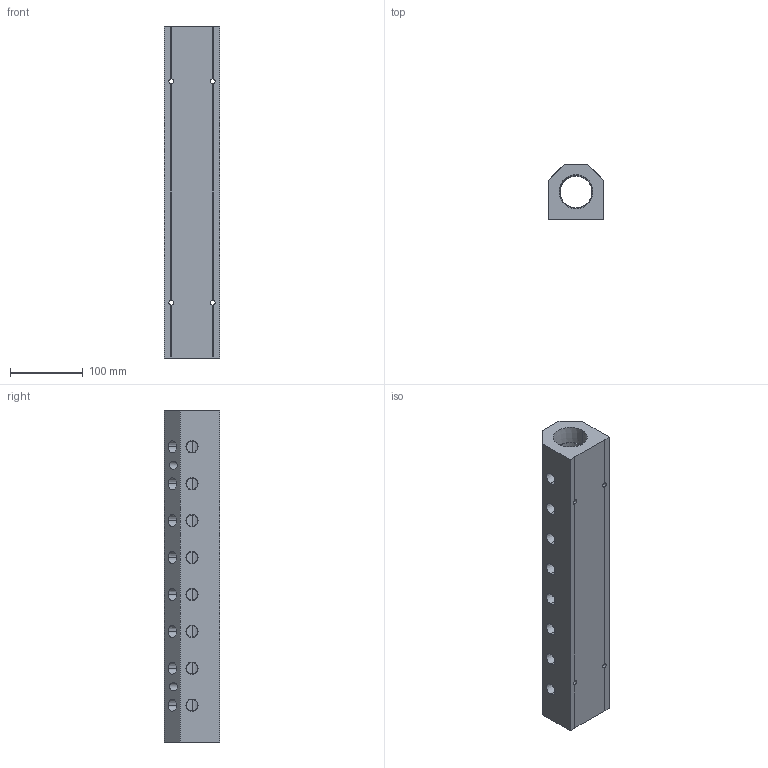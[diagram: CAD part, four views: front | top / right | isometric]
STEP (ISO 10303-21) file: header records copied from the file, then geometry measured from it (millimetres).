
FILE_DESCRIPTION (( 'STEP AP214' ), '1' );
FILE_NAME ('ALM8AB-N6N24-457R.step', '2022-02-07T07:58:12', ( '' ), ( '' ), 'SwSTEP 2.0', 'SolidWorks 2020', '' );
FILE_SCHEMA (( 'AUTOMOTIVE_DESIGN' ));
Length unit declared in the file: millimetre
Products named in the file (1): ALM8AB-N6N24-457R
Bounding box: 76.2 x 76.2 x 457 mm (x, y, z)
Volume: 1649579.6 mm3; surface area: 210918.1 mm2
Topology: 1 solids, 1 shells, 334 faces, 891 edges, 586 vertices
Faces by surface type: plane 222, bspline 58, cone 36, cylinder 18
Entity records: 18534 total; most frequent: CARTESIAN_POINT 7422, ORIENTED_EDGE 1782, DIRECTION 1349, EDGE_CURVE 891, LINE 659, VECTOR 659, VERTEX_POINT 586, EDGE_LOOP 403
